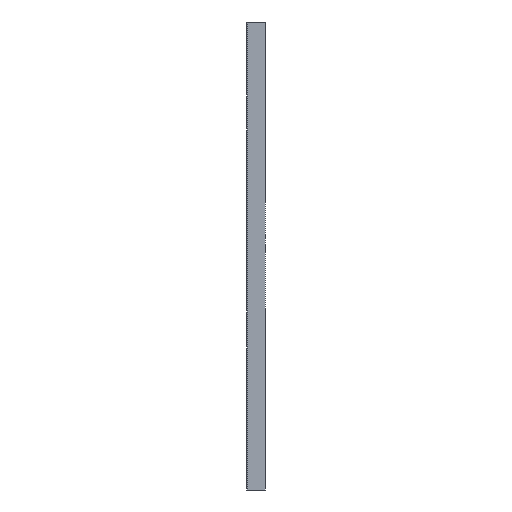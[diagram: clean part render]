
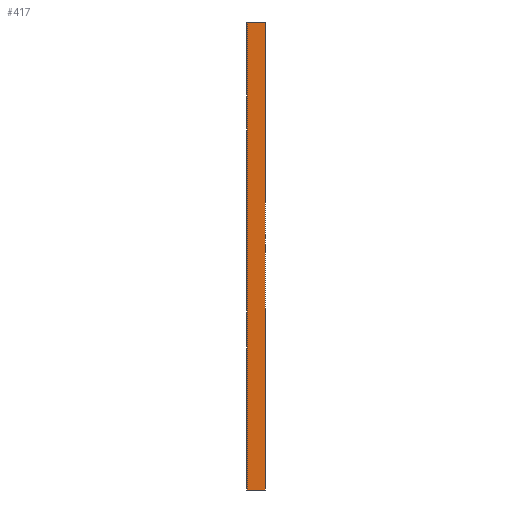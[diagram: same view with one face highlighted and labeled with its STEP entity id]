
A CAD part, left-side view. The second image highlights one B-rep face of the part: STEP entity #417.
In plain terms, the highlighted planar face has unit normal (-1, 0, 0).
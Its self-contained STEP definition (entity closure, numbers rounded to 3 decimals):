
#7 = EDGE_CURVE ( 'NONE', #441, #848, #705, .T. ) ;
#41 = VECTOR ( 'NONE', #984, 1000. ) ;
#108 = ORIENTED_EDGE ( 'NONE', *, *, #1025, .F. ) ;
#132 = VECTOR ( 'NONE', #614, 1000. ) ;
#161 = FACE_OUTER_BOUND ( 'NONE', #1043, .T. ) ;
#181 = CARTESIAN_POINT ( 'NONE',  ( -228., -17., -394. ) ) ;
#192 = EDGE_CURVE ( 'NONE', #310, #441, #1061, .T. ) ;
#237 = CARTESIAN_POINT ( 'NONE',  ( -228., 0., -394. ) ) ;
#310 = VERTEX_POINT ( 'NONE', #657 ) ;
#351 = DIRECTION ( 'NONE',  ( 0., 0., 1. ) ) ;
#417 = ADVANCED_FACE ( 'NONE', ( #161 ), #600, .T. ) ;
#441 = VERTEX_POINT ( 'NONE', #524 ) ;
#447 = DIRECTION ( 'NONE',  ( -1., 0., 0. ) ) ;
#472 = DIRECTION ( 'NONE',  ( 0., 0., 1. ) ) ;
#524 = CARTESIAN_POINT ( 'NONE',  ( -228., -17., 40. ) ) ;
#578 = VECTOR ( 'NONE', #880, 1000. ) ;
#600 = PLANE ( 'NONE',  #946 ) ;
#614 = DIRECTION ( 'NONE',  ( 0., 1., 0. ) ) ;
#634 = CARTESIAN_POINT ( 'NONE',  ( -228., -17., -394. ) ) ;
#642 = LINE ( 'NONE', #991, #1067 ) ;
#657 = CARTESIAN_POINT ( 'NONE',  ( -228., -17., -394. ) ) ;
#674 = VERTEX_POINT ( 'NONE', #237 ) ;
#686 = CARTESIAN_POINT ( 'NONE',  ( -228., 0., 40. ) ) ;
#705 = LINE ( 'NONE', #952, #132 ) ;
#752 = ORIENTED_EDGE ( 'NONE', *, *, #192, .T. ) ;
#792 = LINE ( 'NONE', #181, #578 ) ;
#848 = VERTEX_POINT ( 'NONE', #686 ) ;
#880 = DIRECTION ( 'NONE',  ( 0., 1., 0. ) ) ;
#922 = EDGE_CURVE ( 'NONE', #310, #674, #792, .T. ) ;
#946 = AXIS2_PLACEMENT_3D ( 'NONE', #1054, #447, #351 ) ;
#952 = CARTESIAN_POINT ( 'NONE',  ( -228., -17., 40. ) ) ;
#984 = DIRECTION ( 'NONE',  ( 0., 0., 1. ) ) ;
#991 = CARTESIAN_POINT ( 'NONE',  ( -228., 0., -394. ) ) ;
#1025 = EDGE_CURVE ( 'NONE', #674, #848, #642, .T. ) ;
#1033 = ORIENTED_EDGE ( 'NONE', *, *, #7, .T. ) ;
#1043 = EDGE_LOOP ( 'NONE', ( #108, #1045, #752, #1033 ) ) ;
#1045 = ORIENTED_EDGE ( 'NONE', *, *, #922, .F. ) ;
#1054 = CARTESIAN_POINT ( 'NONE',  ( -228., -17., -394. ) ) ;
#1061 = LINE ( 'NONE', #634, #41 ) ;
#1067 = VECTOR ( 'NONE', #472, 1000. ) ;
